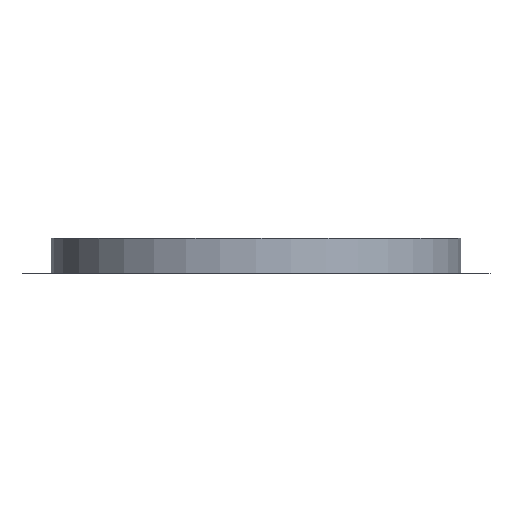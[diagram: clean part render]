
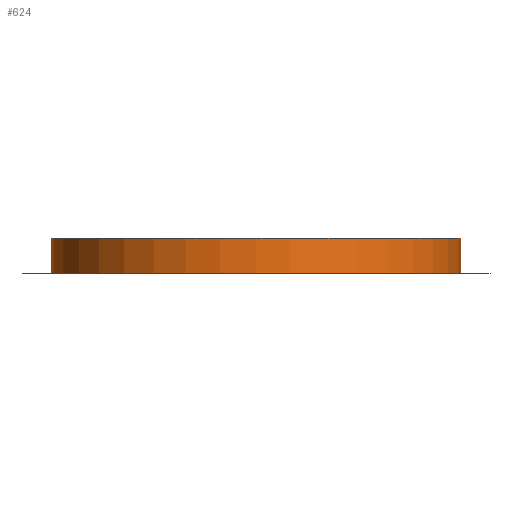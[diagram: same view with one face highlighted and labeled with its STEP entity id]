
A CAD part, front view. The second image highlights one B-rep face of the part: STEP entity #624.
In plain terms, the highlighted cylindrical face has radius 87.5 mm (diameter 175 mm), a full revolution.
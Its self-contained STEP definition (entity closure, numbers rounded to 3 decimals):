
#624 = ADVANCED_FACE( '', ( #1765, #1766 ), #1767, .T. );
#1765 = FACE_OUTER_BOUND( '', #3456, .T. );
#1766 = FACE_OUTER_BOUND( '', #3457, .T. );
#1767 = CYLINDRICAL_SURFACE( '', #3458, 87.5 );
#3456 = EDGE_LOOP( '', ( #5210 ) );
#3457 = EDGE_LOOP( '', ( #5211 ) );
#3458 = AXIS2_PLACEMENT_3D( '', #5212, #5213, #5214 );
#5210 = ORIENTED_EDGE( '', *, *, #11173, .F. );
#5211 = ORIENTED_EDGE( '', *, *, #11174, .T. );
#5212 = CARTESIAN_POINT( '', ( 113.348, 106.448, 15. ) );
#5213 = DIRECTION( '', ( 0., 0., 1. ) );
#5214 = DIRECTION( '', ( -1., 0., 0. ) );
#11173 = EDGE_CURVE( '', #13979, #13979, #13980, .T. );
#11174 = EDGE_CURVE( '', #13981, #13981, #13982, .T. );
#13979 = VERTEX_POINT( '', #18403 );
#13980 = CIRCLE( '', #18404, 87.5 );
#13981 = VERTEX_POINT( '', #18405 );
#13982 = CIRCLE( '', #18406, 87.5 );
#18403 = CARTESIAN_POINT( '', ( 113.348, 193.948, 15. ) );
#18404 = AXIS2_PLACEMENT_3D( '', #24844, #24845, #24846 );
#18405 = CARTESIAN_POINT( '', ( 113.348, 193.948, 0. ) );
#18406 = AXIS2_PLACEMENT_3D( '', #24847, #24848, #24849 );
#24844 = CARTESIAN_POINT( '', ( 113.348, 106.448, 15. ) );
#24845 = DIRECTION( '', ( 0., 0., 1. ) );
#24846 = DIRECTION( '', ( 0., 1., 0. ) );
#24847 = CARTESIAN_POINT( '', ( 113.348, 106.448, 0. ) );
#24848 = DIRECTION( '', ( 0., 0., 1. ) );
#24849 = DIRECTION( '', ( 0., 1., 0. ) );
